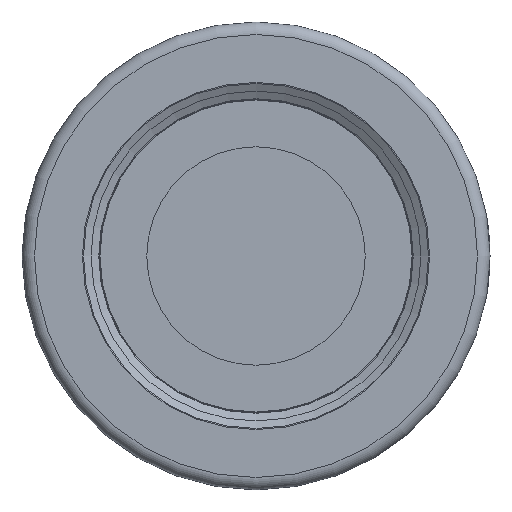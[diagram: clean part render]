
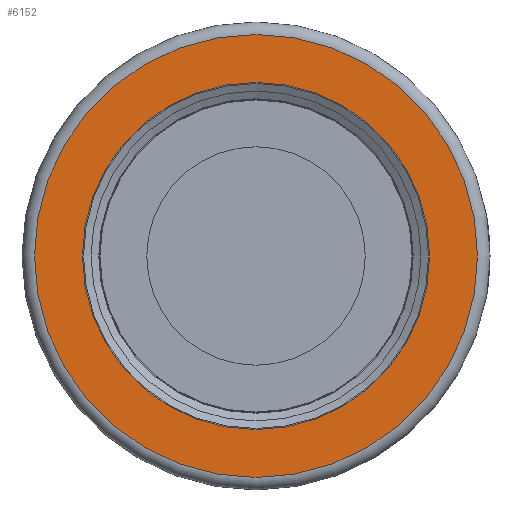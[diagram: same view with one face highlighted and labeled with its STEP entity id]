
A CAD part, left-side view. The second image highlights one B-rep face of the part: STEP entity #6152.
In plain terms, the highlighted planar face has unit normal (-1, 0, 0).
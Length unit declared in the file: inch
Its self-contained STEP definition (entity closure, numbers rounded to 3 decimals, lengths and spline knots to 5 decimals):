
#246=PLANE('',#6559);
#1940=ORIENTED_EDGE('',*,*,#2560,.F.);
#1941=ORIENTED_EDGE('',*,*,#2561,.T.);
#2560=EDGE_CURVE('',#2974,#2974,#3148,.T.);
#2561=EDGE_CURVE('',#2975,#2975,#3149,.T.);
#2974=VERTEX_POINT('',#10181);
#2975=VERTEX_POINT('',#10184);
#3148=CIRCLE('',#6558,1.065);
#3149=CIRCLE('',#6560,0.8345);
#3488=EDGE_LOOP('',(#1940));
#3489=EDGE_LOOP('',(#1941));
#3871=FACE_BOUND('',#3488,.T.);
#3872=FACE_BOUND('',#3489,.T.);
#6152=ADVANCED_FACE('',(#3871,#3872),#246,.F.);
#6558=AXIS2_PLACEMENT_3D('',#10180,#7579,#7580);
#6559=AXIS2_PLACEMENT_3D('',#10182,#7581,#7582);
#6560=AXIS2_PLACEMENT_3D('',#10183,#7583,#7584);
#7579=DIRECTION('',(1.,0.,0.));
#7580=DIRECTION('',(0.,0.,1.));
#7581=DIRECTION('',(1.,0.,0.));
#7582=DIRECTION('',(0.,0.,1.));
#7583=DIRECTION('',(1.,0.,0.));
#7584=DIRECTION('',(0.,0.,1.));
#10180=CARTESIAN_POINT('',(0.,0.,0.));
#10181=CARTESIAN_POINT('',(0.,0.,1.065));
#10182=CARTESIAN_POINT('',(0.,0.,0.));
#10183=CARTESIAN_POINT('',(0.,0.,0.));
#10184=CARTESIAN_POINT('',(0.,0.,0.8345));
